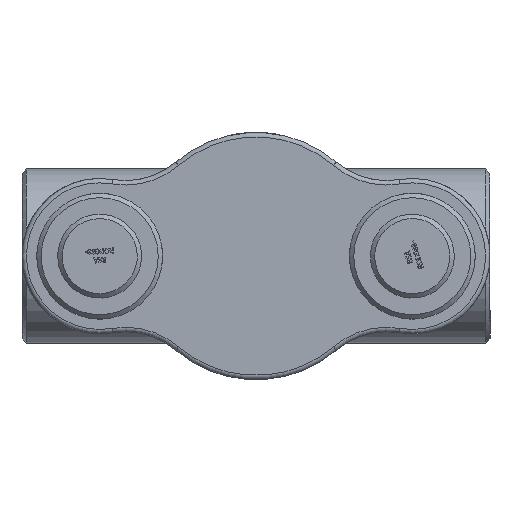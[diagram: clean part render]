
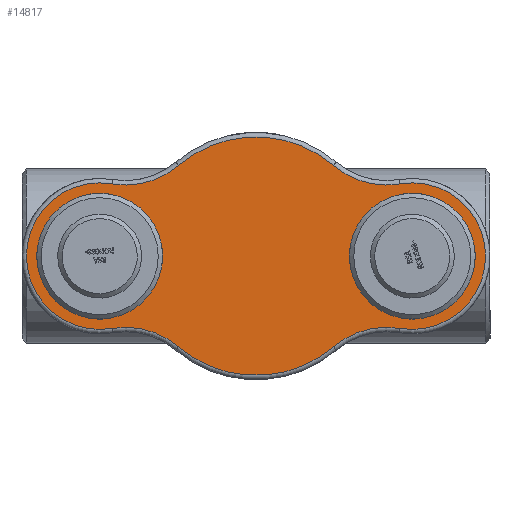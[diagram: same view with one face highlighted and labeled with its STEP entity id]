
A CAD part, front view. The second image highlights one B-rep face of the part: STEP entity #14817.
In plain terms, the highlighted planar face has unit normal (0, -1, 0) as drawn and (0, 0, -1) by its records, which use the part's own axes.
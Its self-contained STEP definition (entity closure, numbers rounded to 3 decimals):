
#3869=PLANE('',#15785);
#4228=FACE_BOUND('',#5223,.T.);
#4229=FACE_BOUND('',#5224,.T.);
#4343=FACE_OUTER_BOUND('',#5222,.T.);
#5222=EDGE_LOOP('',(#10212,#10213,#10214,#10215,#10216,#10217,#10218,#10219));
#5223=EDGE_LOOP('',(#10220));
#5224=EDGE_LOOP('',(#10221));
#6214=CIRCLE('',#15784,54.5);
#6215=CIRCLE('',#15786,83.);
#6216=CIRCLE('',#15787,93.);
#6217=CIRCLE('',#15788,135.);
#6218=CIRCLE('',#15789,93.);
#6219=CIRCLE('',#15790,83.);
#6220=CIRCLE('',#15791,93.);
#6221=CIRCLE('',#15792,135.);
#6222=CIRCLE('',#15793,93.);
#6223=CIRCLE('',#15794,54.5);
#6390=VERTEX_POINT('',#18979);
#6391=VERTEX_POINT('',#18982);
#6392=VERTEX_POINT('',#18983);
#6393=VERTEX_POINT('',#18985);
#6394=VERTEX_POINT('',#18987);
#6395=VERTEX_POINT('',#18989);
#6396=VERTEX_POINT('',#18991);
#6397=VERTEX_POINT('',#18993);
#6398=VERTEX_POINT('',#18995);
#6399=VERTEX_POINT('',#18998);
#7918=EDGE_CURVE('',#6390,#6390,#6214,.T.);
#7919=EDGE_CURVE('',#6391,#6392,#6215,.T.);
#7920=EDGE_CURVE('',#6393,#6391,#6216,.T.);
#7921=EDGE_CURVE('',#6394,#6393,#6217,.T.);
#7922=EDGE_CURVE('',#6395,#6394,#6218,.T.);
#7923=EDGE_CURVE('',#6396,#6395,#6219,.T.);
#7924=EDGE_CURVE('',#6397,#6396,#6220,.T.);
#7925=EDGE_CURVE('',#6398,#6397,#6221,.T.);
#7926=EDGE_CURVE('',#6392,#6398,#6222,.T.);
#7927=EDGE_CURVE('',#6399,#6399,#6223,.T.);
#10212=ORIENTED_EDGE('',*,*,#7919,.F.);
#10213=ORIENTED_EDGE('',*,*,#7920,.F.);
#10214=ORIENTED_EDGE('',*,*,#7921,.F.);
#10215=ORIENTED_EDGE('',*,*,#7922,.F.);
#10216=ORIENTED_EDGE('',*,*,#7923,.F.);
#10217=ORIENTED_EDGE('',*,*,#7924,.F.);
#10218=ORIENTED_EDGE('',*,*,#7925,.F.);
#10219=ORIENTED_EDGE('',*,*,#7926,.F.);
#10220=ORIENTED_EDGE('',*,*,#7927,.F.);
#10221=ORIENTED_EDGE('',*,*,#7918,.F.);
#14817=ADVANCED_FACE('',(#4343,#4228,#4229),#3869,.F.);
#15784=AXIS2_PLACEMENT_3D('',#18980,#16455,#16456);
#15785=AXIS2_PLACEMENT_3D('',#18981,#16457,#16458);
#15786=AXIS2_PLACEMENT_3D('',#18984,#16459,#16460);
#15787=AXIS2_PLACEMENT_3D('',#18986,#16461,#16462);
#15788=AXIS2_PLACEMENT_3D('',#18988,#16463,#16464);
#15789=AXIS2_PLACEMENT_3D('',#18990,#16465,#16466);
#15790=AXIS2_PLACEMENT_3D('',#18992,#16467,#16468);
#15791=AXIS2_PLACEMENT_3D('',#18994,#16469,#16470);
#15792=AXIS2_PLACEMENT_3D('',#18996,#16471,#16472);
#15793=AXIS2_PLACEMENT_3D('',#18997,#16473,#16474);
#15794=AXIS2_PLACEMENT_3D('',#18999,#16475,#16476);
#16455=DIRECTION('center_axis',(0.,0.,-1.));
#16456=DIRECTION('ref_axis',(1.,0.,0.));
#16457=DIRECTION('center_axis',(0.,0.,1.));
#16458=DIRECTION('ref_axis',(1.,0.,0.));
#16459=DIRECTION('center_axis',(0.,0.,1.));
#16460=DIRECTION('ref_axis',(-1.,0.,0.));
#16461=DIRECTION('center_axis',(0.,0.,-1.));
#16462=DIRECTION('ref_axis',(0.266,-0.964,0.));
#16463=DIRECTION('center_axis',(0.,0.,1.));
#16464=DIRECTION('ref_axis',(0.,1.,0.));
#16465=DIRECTION('center_axis',(0.,0.,-1.));
#16466=DIRECTION('ref_axis',(-0.266,-0.964,0.));
#16467=DIRECTION('center_axis',(0.,0.,1.));
#16468=DIRECTION('ref_axis',(1.,0.,0.));
#16469=DIRECTION('center_axis',(0.,0.,-1.));
#16470=DIRECTION('ref_axis',(-0.266,0.964,0.));
#16471=DIRECTION('center_axis',(0.,0.,1.));
#16472=DIRECTION('ref_axis',(0.,-1.,0.));
#16473=DIRECTION('center_axis',(0.,0.,-1.));
#16474=DIRECTION('ref_axis',(0.266,0.964,0.));
#16475=DIRECTION('center_axis',(0.,0.,-1.));
#16476=DIRECTION('ref_axis',(1.,0.,0.));
#18979=CARTESIAN_POINT('',(122.5,0.,0.));
#18980=CARTESIAN_POINT('Origin',(177.,0.,0.));
#18981=CARTESIAN_POINT('Origin',(0.,0.,0.));
#18982=CARTESIAN_POINT('',(-163.251,81.853,0.));
#18983=CARTESIAN_POINT('',(-163.251,-81.853,0.));
#18984=CARTESIAN_POINT('Origin',(-177.,0.,0.));
#18985=CARTESIAN_POINT('',(-87.54,102.771,0.));
#18986=CARTESIAN_POINT('Origin',(-147.845,173.568,0.));
#18987=CARTESIAN_POINT('',(87.54,102.771,0.));
#18988=CARTESIAN_POINT('Origin',(0.,0.,0.));
#18989=CARTESIAN_POINT('',(163.251,81.853,0.));
#18990=CARTESIAN_POINT('Origin',(147.845,173.568,0.));
#18991=CARTESIAN_POINT('',(163.251,-81.853,0.));
#18992=CARTESIAN_POINT('Origin',(177.,0.,0.));
#18993=CARTESIAN_POINT('',(87.54,-102.771,0.));
#18994=CARTESIAN_POINT('Origin',(147.845,-173.568,0.));
#18995=CARTESIAN_POINT('',(-87.54,-102.771,0.));
#18996=CARTESIAN_POINT('Origin',(0.,0.,0.));
#18997=CARTESIAN_POINT('Origin',(-147.845,-173.568,0.));
#18998=CARTESIAN_POINT('',(-231.5,0.,0.));
#18999=CARTESIAN_POINT('Origin',(-177.,0.,0.));
